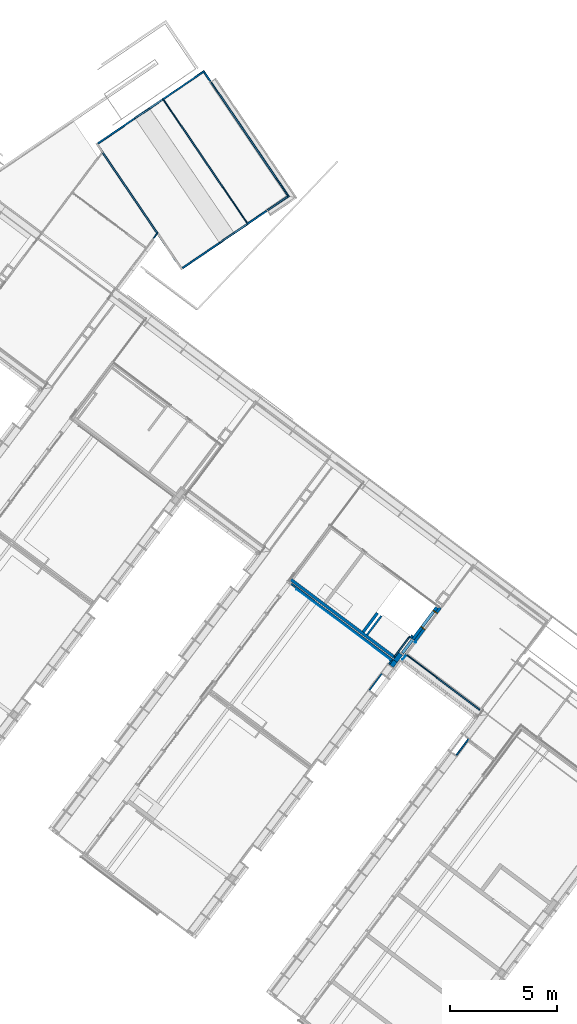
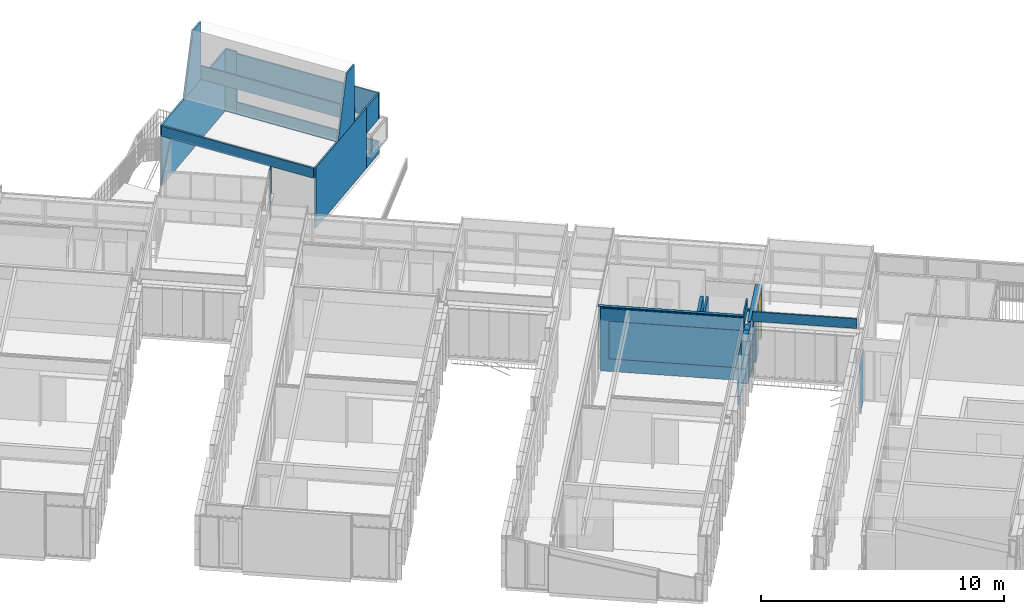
# One storey, part 131 of 243: 28 walls, 1 door, 4 openings.
"""IFC2X3 building model written with IfcOpenShell, lengths in metres."""

from ifc_helpers import new_model, entity, si_unit, converted_unit, derived_unit, direction, frame, frame_2d, origin, origin_2d_with_axis, place, context, subcontext, project, spatial, polyline, rectangle, outline, extrude, clip, halfspace, source, transform, mapped, material, layer, layer_set, layer_usage, type_object, type_shapes, element, fill, save


model = new_model("IFC2X3")

# Units and contexts
model_context = context("Model", 3, precision=1e-05, world=origin(), true_north=direction((6.123031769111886e-17, 1.0)))
body_context = subcontext(model_context, "Body", "Model", "MODEL_VIEW")
ifc_project = project(units=[si_unit("LENGTHUNIT", "METRE"), si_unit("AREAUNIT", "SQUARE_METRE"), si_unit("VOLUMEUNIT", "CUBIC_METRE"), converted_unit("PLANEANGLEUNIT", "DEGREE", entity("IfcRatioMeasure", 0.017453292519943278), si_unit("PLANEANGLEUNIT", "RADIAN"), dimensions=[0, 0, 0, 0, 0, 0, 0]), si_unit("MASSUNIT", "GRAM", prefix="KILO"), derived_unit("MASSDENSITYUNIT", [(si_unit("MASSUNIT", "GRAM", prefix="KILO"), 1), (si_unit("LENGTHUNIT", "METRE"), -3)]), derived_unit("IONCONCENTRATIONUNIT", [(si_unit("MASSUNIT", "GRAM", prefix="KILO"), 1), (si_unit("LENGTHUNIT", "METRE"), -3)]), derived_unit("MOMENTOFINERTIAUNIT", [(si_unit("LENGTHUNIT", "METRE"), 4)]), si_unit("TIMEUNIT", "SECOND"), si_unit("FREQUENCYUNIT", "HERTZ"), si_unit("THERMODYNAMICTEMPERATUREUNIT", "DEGREE_CELSIUS"), derived_unit("THERMALTRANSMITTANCEUNIT", [(si_unit("MASSUNIT", "GRAM", prefix="KILO"), 1), (si_unit("THERMODYNAMICTEMPERATUREUNIT", "KELVIN"), -1), (si_unit("TIMEUNIT", "SECOND"), -3)]), derived_unit("THERMALCONDUCTANCEUNIT", [(si_unit("MASSUNIT", "GRAM", prefix="KILO"), 1), (si_unit("THERMODYNAMICTEMPERATUREUNIT", "KELVIN"), -1), (si_unit("TIMEUNIT", "SECOND"), -3), (si_unit("LENGTHUNIT", "METRE"), 1)]), derived_unit("VOLUMETRICFLOWRATEUNIT", [(si_unit("LENGTHUNIT", "METRE"), 3), (si_unit("TIMEUNIT", "SECOND"), -1)]), derived_unit("MASSFLOWRATEUNIT", [(si_unit("MASSUNIT", "GRAM", prefix="KILO"), 1), (si_unit("TIMEUNIT", "SECOND"), -1)]), derived_unit("ROTATIONALFREQUENCYUNIT", [(si_unit("TIMEUNIT", "SECOND"), -1)]), si_unit("ELECTRICCURRENTUNIT", "AMPERE"), si_unit("ELECTRICVOLTAGEUNIT", "VOLT"), si_unit("POWERUNIT", "WATT"), si_unit("FORCEUNIT", "NEWTON", prefix="KILO"), si_unit("ILLUMINANCEUNIT", "LUX"), si_unit("LUMINOUSFLUXUNIT", "LUMEN"), si_unit("LUMINOUSINTENSITYUNIT", "CANDELA"), derived_unit("USERDEFINED", [(si_unit("MASSUNIT", "GRAM", prefix="KILO"), -1), (si_unit("LENGTHUNIT", "METRE"), -2), (si_unit("TIMEUNIT", "SECOND"), 3), (si_unit("LUMINOUSFLUXUNIT", "LUMEN"), 1)]), derived_unit("USERDEFINED", [(si_unit("MASSUNIT", "GRAM", prefix="KILO"), 1), (si_unit("TIMEUNIT", "SECOND"), -3), (si_unit("LENGTHUNIT", "METRE"), 3), (si_unit("ELECTRICCURRENTUNIT", "AMPERE"), -2)]), derived_unit("SOUNDPOWERUNIT", [(si_unit("MASSUNIT", "GRAM", prefix="KILO"), 1), (si_unit("TIMEUNIT", "SECOND"), -3), (si_unit("LENGTHUNIT", "METRE"), 2)]), derived_unit("SOUNDPRESSUREUNIT", [(si_unit("MASSUNIT", "GRAM", prefix="KILO"), 1), (si_unit("LENGTHUNIT", "METRE"), -1), (si_unit("TIMEUNIT", "SECOND"), -2)]), derived_unit("LINEARVELOCITYUNIT", [(si_unit("LENGTHUNIT", "METRE"), 1), (si_unit("TIMEUNIT", "SECOND"), -1)]), si_unit("PRESSUREUNIT", "PASCAL"), derived_unit("USERDEFINED", [(si_unit("MASSUNIT", "GRAM", prefix="KILO"), 1), (si_unit("LENGTHUNIT", "METRE"), -2), (si_unit("TIMEUNIT", "SECOND"), -2)]), derived_unit("LINEARFORCEUNIT", [(si_unit("MASSUNIT", "GRAM", prefix="KILO"), 1), (si_unit("TIMEUNIT", "SECOND"), -2)]), derived_unit("PLANARFORCEUNIT", [(si_unit("MASSUNIT", "GRAM", prefix="KILO"), 1), (si_unit("LENGTHUNIT", "METRE"), -1), (si_unit("TIMEUNIT", "SECOND"), -2)]), derived_unit("SPECIFICHEATCAPACITYUNIT", [(si_unit("THERMODYNAMICTEMPERATUREUNIT", "KELVIN"), -1), (si_unit("LENGTHUNIT", "METRE"), 2), (si_unit("TIMEUNIT", "SECOND"), -2)]), derived_unit("HEATINGVALUEUNIT", [(si_unit("LENGTHUNIT", "METRE"), 2), (si_unit("TIMEUNIT", "SECOND"), -2)]), derived_unit("VAPORPERMEABILITYUNIT", [(si_unit("LENGTHUNIT", "METRE"), -1), (si_unit("TIMEUNIT", "SECOND"), 1)]), derived_unit("DYNAMICVISCOSITYUNIT", [(si_unit("MASSUNIT", "GRAM", prefix="KILO"), 1), (si_unit("TIMEUNIT", "SECOND"), -1), (si_unit("LENGTHUNIT", "METRE"), -1)]), derived_unit("THERMALEXPANSIONCOEFFICIENTUNIT", [(si_unit("THERMODYNAMICTEMPERATUREUNIT", "KELVIN"), -1)]), derived_unit("MODULUSOFELASTICITYUNIT", [(si_unit("MASSUNIT", "GRAM", prefix="KILO"), 1), (si_unit("LENGTHUNIT", "METRE"), -1), (si_unit("TIMEUNIT", "SECOND"), -2)]), derived_unit("ISOTHERMALMOISTURECAPACITYUNIT", [(si_unit("LENGTHUNIT", "METRE"), 3), (si_unit("MASSUNIT", "GRAM", prefix="KILO"), -1)]), derived_unit("MOISTUREDIFFUSIVITYUNIT", [(si_unit("TIMEUNIT", "SECOND"), -1), (si_unit("LENGTHUNIT", "METRE"), 2)])], contexts=[model_context])

# Site, building, storey
site_placement = place(None, frame((0.0, 0.0, 235.0), z_axis=(0.0, 0.0, 1.0), x_axis=(-0.7996477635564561, 0.6004693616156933, 0.0)))
site = spatial("IfcSite", under=ifc_project, at=site_placement, Name="Default", CompositionType="ELEMENT")
building_placement = place(site_placement, origin())
building = spatial("IfcBuilding", under=site, at=building_placement, CompositionType="ELEMENT")
storey_placement = place(building_placement, origin())
storey = spatial("IfcBuildingStorey", under=building, at=storey_placement, Name="P0- Escola", CompositionType="ELEMENT", Elevation=0.0)

# Walls
ifc_material_1 = material(Name="_Ceràmica- ENV")
ifc_layer_1 = layer(ifc_material_1, 0.14)
ifc_layer_set_1 = layer_set([ifc_layer_1], Name="Muro básico:ENV- Ceràmic- 14 cm")
ifc_layer_usage_1 = layer_usage(ifc_layer_set_1, "AXIS2", "NEGATIVE", 0.07)
wall_type_1 = type_object("IfcWallType", Name="Muro básico:ENV- Ceràmic- 14 cm", PredefinedType="STANDARD", material=ifc_layer_set_1)
wall_1_placement = place(storey_placement, frame((43.24014768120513, -36.43818994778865, -0.2), z_axis=(0.0, 0.0, 1.0), x_axis=(0.0, -1.0, 0.0)))
element("IfcWallStandardCase", 1, at=wall_1_placement, inside=storey, type_object=wall_type_1, material=ifc_layer_usage_1, Name="Muro básico:ENV- Ceràmic- 14 cm", ObjectType="Muro básico:ENV- Ceràmic- 14 cm", context=body_context, shape_type="SweptSolid", body=[
    extrude(rectangle(XDim=1.1049999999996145, YDim=0.14000000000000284, at=frame_2d((0.5524999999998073, 1.5751289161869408e-15), x_axis=(-1.0, 0.0))), origin(), (0.0, 0.0, 1.0), 3.350000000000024),
])
wall_2_placement = place(storey_placement, frame((47.445147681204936, -36.36818994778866, 0.0), z_axis=(0.0, 0.0, 1.0), x_axis=(-1.0, 0.0, 0.0)))
element("IfcWallStandardCase", 2, at=wall_2_placement, inside=storey, type_object=wall_type_1, material=ifc_layer_usage_1, Name="Muro básico:ENV- Ceràmic- 14 cm", ObjectType="Muro básico:ENV- Ceràmic- 14 cm", context=body_context, shape_type="SweptSolid", body=[
    extrude(rectangle(XDim=6.059999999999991, YDim=0.1399999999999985, at=frame_2d((3.0699999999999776, 2.2620794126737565e-15), x_axis=(-1.0, 0.0))), origin(), (0.0, 0.0, 1.0), 3.150000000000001),
])

# Wall, openings, door
wall_3_placement = place(storey_placement, frame((41.18514768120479, -36.75318813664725, -0.2), z_axis=(0.0, 0.0, 1.0), x_axis=(0.0, -1.0, 0.0)))
wall_3 = element("IfcWallStandardCase", 3, at=wall_3_placement, inside=storey, type_object=wall_type_1, material=ifc_layer_usage_1, Name="Muro básico:ENV- Ceràmic- 14 cm", ObjectType="Muro básico:ENV- Ceràmic- 14 cm", context=body_context, shape_type="SweptSolid", body=[
    extrude(rectangle(XDim=2.667501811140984, YDim=0.14000000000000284, at=frame_2d((1.3337509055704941, 1.0269562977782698e-15), x_axis=(-1.0, 0.0))), origin(), (0.0, 0.0, 1.0), 2.8000000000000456),
])
opening_1_placement = place(wall_3_placement, frame((-0.0799999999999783, -0.06999999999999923, 0.2)))
element("IfcOpeningElement", 4, at=opening_1_placement, cuts=wall_3, Name="FUS- Porta Fusta- marc ocult variable- obertura interior:FUS- Porta Fusta- marc ocult- 90x250,5 cm:1", ObjectType="Opening", context=body_context, shape_type="SweptSolid", body=[
    extrude(rectangle(XDim=2.5449999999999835, YDim=0.8700000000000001, at=frame_2d((1.2724999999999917, 0.4350000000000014), x_axis=(1.0, 0.0))), frame((0.0, 0.0, 0.0), z_axis=(0.0, 1.0, 0.0), x_axis=(0.0, 0.0, 1.0)), (0.0, 0.0, 1.0), 0.14),
])
opening_2_placement = place(wall_3_placement, frame((1.48500181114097, -0.06999999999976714, 0.2)))
opening_2 = element("IfcOpeningElement", 5, at=opening_2_placement, cuts=wall_3, Name="FUS- Marc Fusta- marc ocult variable- remat ascensor:FUS- Porta Fusta- marc ocult- 90x250,5 cm:1", ObjectType="Opening", context=body_context, shape_type="SweptSolid", body=[
    extrude(rectangle(XDim=2.5449999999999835, YDim=0.9800000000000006, at=frame_2d((1.2724999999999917, 0.4900000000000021), x_axis=(1.0, 0.0))), frame((0.0, 0.0, 0.0), z_axis=(0.0, 1.0, 0.0), x_axis=(0.0, 0.0, 1.0)), (0.0, 0.0, 1.0), 0.14),
])
ifc_material_2 = material(Name="_Fusta massisa- T1")
door_style = type_object("IfcDoorStyle", Name="FUS- Marc Fusta- marc ocult variable- remat ascensor:FUS- Porta Fusta- marc ocult- 90x250,5 cm", ConstructionType="NOTDEFINED", OperationType="NOTDEFINED", ParameterTakesPrecedence=False, Sizeable=False, material=ifc_material_2)
shared_shape = source(origin(), body_context, "Body", "SweptSolid", [
    extrude(outline(polyline([(-1.2424999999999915, 0.4500000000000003), (1.2624999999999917, 0.4500000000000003), (1.2624999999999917, 0.49000000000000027), (-1.2824999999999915, 0.49000000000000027), (-1.2824999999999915, -0.48999999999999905), (1.2624999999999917, -0.4899999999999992), (1.2624999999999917, -0.44999999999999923), (-1.2424999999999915, -0.4500000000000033), (-1.2424999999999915, 0.4500000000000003)])), frame((0.49000000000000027, 0.0, 1.2624999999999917), z_axis=(0.0, 1.0, 0.0), x_axis=(0.0, 0.0, -1.0)), (0.0, 0.0, 1.0), 0.2750000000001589),
])
type_shapes(door_style, [shared_shape])
door_placement = place(opening_2_placement, frame((0.9799999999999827, 0.14000000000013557, 0.0), z_axis=(0.0, 0.0, 1.0), x_axis=(-1.0, 0.0, 0.0)))
door = element("IfcDoor", 6, at=door_placement, inside=storey, type_object=door_style, material=ifc_material_2, Name="FUS- Marc Fusta- marc ocult variable- remat ascensor:FUS- Porta Fusta- marc ocult- 90x250,5 cm", ObjectType="FUS- Marc Fusta- marc ocult variable- remat ascensor:FUS- Porta Fusta- marc ocult- 90x250,5 cm", OverallHeight=2.5449999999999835, OverallWidth=0.9800000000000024, context=body_context, shape_type="MappedRepresentation", body=[
    mapped(shared_shape, transform((0.0, 0.0, 0.0), scale=1.0)),
])
fill(opening_2, door)

# Walls
wall_4_placement = place(storey_placement, frame((41.34514768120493, -37.61318813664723, -0.2), z_axis=(0.0, 0.0, 1.0), x_axis=(-1.0, 0.0, 0.0)))
element("IfcWallStandardCase", 7, at=wall_4_placement, inside=storey, type_object=wall_type_1, material=ifc_layer_usage_1, Name="Muro básico:ENV- Ceràmic- 14 cm", ObjectType="Muro básico:ENV- Ceràmic- 14 cm", context=body_context, shape_type="SweptSolid", body=[
    extrude(rectangle(XDim=0.0900000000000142, YDim=0.14000000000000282, at=frame_2d((0.0450000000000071, 0.0), x_axis=(-1.0, 0.0))), origin(), (0.0, 0.0, 1.0), 2.8000000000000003),
])
ifc_layer_2 = layer(ifc_material_1, 0.09)
ifc_layer_set_2 = layer_set([ifc_layer_2], Name="Muro básico:ENV- Ceràmic- 9 cm")
ifc_layer_usage_2 = layer_usage(ifc_layer_set_2, "AXIS2", "NEGATIVE", 0.045)
wall_type_2 = type_object("IfcWallType", Name="Muro básico:ENV- Ceràmic- 9 cm", PredefinedType="STANDARD", material=ifc_layer_set_2)
wall_5_placement = place(storey_placement, frame((43.01514768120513, -36.43818994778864, -0.2), z_axis=(0.0, 0.0, 1.0), x_axis=(0.0, -1.0, 0.0)))
element("IfcWallStandardCase", 8, at=wall_5_placement, inside=storey, type_object=wall_type_2, material=ifc_layer_usage_2, Name="Muro básico:ENV- Ceràmic- 9 cm", ObjectType="Muro básico:ENV- Ceràmic- 9 cm", context=body_context, shape_type="SweptSolid", body=[
    extrude(rectangle(XDim=1.104999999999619, YDim=0.08999999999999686, at=frame_2d((0.5524999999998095, 0.0), x_axis=(-1.0, 0.0))), origin(), (0.0, 0.0, 1.0), 3.350000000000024),
])

# Wall, opening
ifc_material_3 = material(Name="_Fusta massisa- T1-  REV- PAV")
ifc_layer_3 = layer(ifc_material_3, 0.015)
ifc_material_4 = material(Name="_Genèric perfils, muntants, rastrells")
ifc_layer_4 = layer(ifc_material_4, 0.02)
ifc_layer_set_3 = layer_set([ifc_layer_3, ifc_layer_4], Name="Muro básico:REV- Fusta- T1- 3,5 cm")
ifc_layer_usage_3 = layer_usage(ifc_layer_set_3, "AXIS2", "NEGATIVE", 0.0175)
wall_type_3 = type_object("IfcWallType", Name="Muro básico:REV- Fusta- T1- 3,5 cm", PredefinedType="STANDARD", material=ifc_layer_set_3)
wall_6_placement = place(storey_placement, frame((40.99764768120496, -37.54068994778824, 0.0), z_axis=(0.0, 0.0, 1.0), x_axis=(0.0, 1.0, 0.0)))
wall_6 = element("IfcWallStandardCase", 9, at=wall_6_placement, inside=storey, type_object=wall_type_3, material=ifc_layer_usage_3, Name="Muro básico:REV- Fusta- T1- 3,5 cm", ObjectType="Muro básico:REV- Fusta- T1- 3,5 cm", context=body_context, shape_type="SweptSolid", body=[
    extrude(rectangle(XDim=1.0375018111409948, YDim=0.03500000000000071, at=frame_2d((0.5187509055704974, -4.331604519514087e-15), x_axis=(1.0, 0.0))), origin(), (0.0, 0.0, 1.0), 2.5650000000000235),
])
opening_3_placement = place(wall_6_placement, frame((0.047098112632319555, 1.5065000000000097, 0.0), z_axis=(0.0, 0.0, 1.0), x_axis=(0.0, -1.0, 0.0)))
element("IfcOpeningElement", 10, at=opening_3_placement, cuts=wall_6, Name="Muro básico:REV- Fusta- T1- 3,5 cm", ObjectType="Opening", context=body_context, shape_type="SweptSolid", body=[
    extrude(rectangle(XDim=2.5049999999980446, YDim=0.772789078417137, at=frame_2d((0.0, 0.0), x_axis=(0.0, 1.0))), frame((3.048, 0.3863945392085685, 1.2524999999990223), z_axis=(-1.0, 0.0, 0.0), x_axis=(0.0, -1.0, 0.0)), (0.0, 0.0, 1.0), 3.048),
])

# Walls
ifc_material_5 = material(Name="_Guix laminat- ENV")
ifc_layer_5 = layer(ifc_material_5, 0.02)
ifc_material_6 = material(Name="_Aillament")
ifc_layer_6 = layer(ifc_material_6, 0.045)
ifc_layer_set_4 = layer_set([ifc_layer_5, ifc_layer_6], Name="Muro básico:REV- Guix Laminat Extradossat- Aillament- T1- 6,5 cm")
ifc_layer_usage_4 = layer_usage(ifc_layer_set_4, "AXIS2", "NEGATIVE", 0.032499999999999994)
wall_type_4 = type_object("IfcWallType", Name="Muro básico:REV- Guix Laminat Extradossat- Aillament- T1- 6,5 cm", PredefinedType="STANDARD", material=ifc_layer_set_4)
wall_7_placement = place(storey_placement, frame((41.045147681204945, -36.79769175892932, 2.6000000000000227), z_axis=(0.0, 0.0, 1.0), x_axis=(-1.0, 0.0, 0.0)))
element("IfcWallStandardCase", 11, at=wall_7_placement, inside=storey, type_object=wall_type_4, material=ifc_layer_usage_4, Name="Muro básico:REV- Guix Laminat Extradossat- Aillament- T1- 6,5 cm", ObjectType="Muro básico:REV- Guix Laminat Extradossat- Aillament- T1- 6,5 cm", context=body_context, shape_type="SweptSolid", body=[
    extrude(rectangle(XDim=4.335008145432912, YDim=0.06500000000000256, at=frame_2d((2.167504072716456, -9.71445146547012e-17), x_axis=(-1.0, 0.0))), origin(), (0.0, 0.0, 1.0), 0.48500000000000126),
])
wall_8_placement = place(storey_placement, frame((41.37764768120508, -34.42019175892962, 0.0), z_axis=(0.0, 0.0, 1.0), x_axis=(0.0, -1.0, 0.0)))
element("IfcWallStandardCase", 12, at=wall_8_placement, inside=storey, type_object=wall_type_4, material=ifc_layer_usage_4, Name="Muro básico:REV- Guix Laminat Extradossat- Aillament- T1- 6,5 cm", ObjectType="Muro básico:REV- Guix Laminat Extradossat- Aillament- T1- 6,5 cm", context=body_context, shape_type="SweptSolid", body=[
    extrude(rectangle(XDim=0.9900000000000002, YDim=0.06500000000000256, at=frame_2d((0.4950000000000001, -1.4467593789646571e-15), x_axis=(-1.0, 0.0))), origin(), (0.0, 0.0, 1.0), 2.535000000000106),
])
wall_9_placement = place(storey_placement, frame((41.37764768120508, -35.953189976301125, 0.0), z_axis=(0.0, 0.0, 1.0), x_axis=(0.0, -1.0, 0.0)))
element("IfcWallStandardCase", 13, at=wall_9_placement, inside=storey, type_object=wall_type_4, material=ifc_layer_usage_4, Name="Muro básico:REV- Guix Laminat Extradossat- Aillament- T1- 6,5 cm", ObjectType="Muro básico:REV- Guix Laminat Extradossat- Aillament- T1- 6,5 cm", context=body_context, shape_type="SweptSolid", body=[
    extrude(rectangle(XDim=0.22200178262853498, YDim=0.06500000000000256, at=frame_2d((0.11100089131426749, 0.0), x_axis=(-1.0, 0.0))), origin(), (0.0, 0.0, 1.0), 2.535000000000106),
])
wall_10_placement = place(storey_placement, frame((58.94700862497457, -48.414051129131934, 3.0399999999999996), z_axis=(0.0, 0.0, 1.0), x_axis=(0.9460037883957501, -0.32415556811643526, 0.0)))
element("IfcWallStandardCase", 14, at=wall_10_placement, inside=storey, type_object=wall_type_4, material=ifc_layer_usage_4, Name="Muro básico:REV- Guix Laminat Extradossat- Aillament- T1- 6,5 cm", ObjectType="Muro básico:REV- Guix Laminat Extradossat- Aillament- T1- 6,5 cm", context=body_context, shape_type="SweptSolid", body=[
    extrude(rectangle(XDim=7.0999999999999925, YDim=0.06500000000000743, at=frame_2d((3.5499999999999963, -1.797173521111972e-15), x_axis=(-1.0, 0.0))), origin(), (0.0, 0.0, 1.0), 0.6776305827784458),
])
ifc_layer_usage_5 = layer_usage(ifc_layer_set_4, "AXIS2", "POSITIVE", -0.032499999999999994)
wall_11_placement = place(storey_placement, frame((36.31264768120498, -34.42019175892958, 0.0), z_axis=(0.0, 0.0, 1.0), x_axis=(0.0, -1.0, 0.0)))
element("IfcWallStandardCase", 15, at=wall_11_placement, inside=storey, type_object=wall_type_4, material=ifc_layer_usage_5, Name="Muro básico:REV- Guix Laminat Extradossat- Aillament- T1- 6,5 cm", ObjectType="Muro básico:REV- Guix Laminat Extradossat- Aillament- T1- 6,5 cm", context=body_context, shape_type="SweptSolid", body=[
    extrude(rectangle(XDim=0.9900000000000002, YDim=0.06500000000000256, at=frame_2d((0.4950000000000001, 7.181755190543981e-16), x_axis=(-1.0, 0.0))), origin(), (0.0, 0.0, 1.0), 2.565),
])
wall_12_placement = place(storey_placement, frame((41.37764768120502, -37.57518994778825, 2.565), z_axis=(0.0, 0.0, 1.0), x_axis=(0.0, 1.0, 0.0)))
element("IfcWallStandardCase", 16, at=wall_12_placement, inside=storey, type_object=wall_type_4, material=ifc_layer_usage_5, Name="Muro básico:REV- Guix Laminat Extradossat- Aillament- T1- 6,5 cm", ObjectType="Muro básico:REV- Guix Laminat Extradossat- Aillament- T1- 6,5 cm", context=body_context, shape_type="SweptSolid", body=[
    extrude(rectangle(XDim=1.1849981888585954, YDim=0.06500000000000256, at=frame_2d((0.5924990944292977, 0.0), x_axis=(-1.0, 0.0))), origin(), (0.0, 0.0, 1.0), 0.5850000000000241),
])
ifc_layer_7 = layer(ifc_material_1, 0.23)
ifc_layer_set_5 = layer_set([ifc_layer_7], Name="Muro básico:ENV- Ceràmic Replè- 23 cm")
ifc_layer_usage_6 = layer_usage(ifc_layer_set_5, "AXIS2", "POSITIVE", -0.115)
wall_type_5 = type_object("IfcWallType", Name="Muro básico:ENV- Ceràmic Replè- 23 cm", PredefinedType="STANDARD", material=ifc_layer_set_5)
wall_13_placement = place(storey_placement, frame((41.23014768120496, -36.238189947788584, 0.0), z_axis=(0.0, 0.0, 1.0), x_axis=(0.0, -1.0, 0.0)))
element("IfcWallStandardCase", 17, at=wall_13_placement, inside=storey, type_object=wall_type_5, material=ifc_layer_usage_6, Name="Muro básico:ENV- Ceràmic Replè- 23 cm", ObjectType="Muro básico:ENV- Ceràmic Replè- 23 cm", context=body_context, shape_type="SweptSolid", body=[
    extrude(rectangle(XDim=0.4349981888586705, YDim=0.2299999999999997, at=frame_2d((0.21749909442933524, 0.0), x_axis=(-1.0, 0.0))), origin(), (0.0, 0.0, 1.0), 2.514054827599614),
])
wall_14_placement = place(storey_placement, frame((41.23014768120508, -35.95318997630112, 0.0), z_axis=(0.0, 0.0, 1.0), x_axis=(0.0, -1.0, 0.0)))
element("IfcWallStandardCase", 18, at=wall_14_placement, inside=storey, type_object=wall_type_5, material=ifc_layer_usage_6, Name="Muro básico:ENV- Ceràmic Replè- 23 cm", ObjectType="Muro básico:ENV- Ceràmic Replè- 23 cm", context=body_context, shape_type="SweptSolid", body=[
    extrude(rectangle(XDim=0.2970017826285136, YDim=0.2299999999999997, at=frame_2d((0.1485008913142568, 0.0), x_axis=(-1.0, 0.0))), origin(), (0.0, 0.0, 1.0), 2.514054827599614),
])

# Wall, opening
ifc_layer_8 = layer(ifc_material_3, 0.015)
ifc_layer_9 = layer(ifc_material_4, 0.12)
ifc_layer_set_6 = layer_set([ifc_layer_8, ifc_layer_9], Name="Muro básico:REV- Fusta- T1- 13,5 cm")
ifc_layer_usage_7 = layer_usage(ifc_layer_set_6, "AXIS2", "POSITIVE", -0.06749999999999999)
wall_type_6 = type_object("IfcWallType", Name="Muro básico:REV- Fusta- T1- 13,5 cm", PredefinedType="STANDARD", material=ifc_layer_set_6)
wall_15_placement = place(storey_placement, frame((41.04764768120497, -37.54068994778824, 0.0), z_axis=(0.0, 0.0, 1.0), x_axis=(0.0, -1.0, 0.0)))
wall_15 = element("IfcWallStandardCase", 19, at=wall_15_placement, inside=storey, type_object=wall_type_6, material=ifc_layer_usage_7, Name="Muro básico:REV- Fusta- T1- 13,5 cm", ObjectType="Muro básico:REV- Fusta- T1- 13,5 cm", context=body_context, shape_type="SweptSolid", body=[
    extrude(rectangle(XDim=1.9575000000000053, YDim=0.13500000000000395, at=frame_2d((0.9787500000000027, -4.093947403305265e-15), x_axis=(-1.0, 0.0))), origin(), (0.0, 0.0, 1.0), 2.565000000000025),
])
opening_4_placement = place(wall_15_placement, frame((1.6802415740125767, -1.4565000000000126, 0.0), z_axis=(0.0, 0.0, 1.0), x_axis=(0.0, 1.0, 0.0)))
element("IfcOpeningElement", 20, at=opening_4_placement, cuts=wall_15, Name="Muro básico:REV- Fusta- T1- 13,5 cm", ObjectType="Opening", context=body_context, shape_type="SweptSolid", body=[
    extrude(rectangle(XDim=2.5449999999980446, YDim=0.9875355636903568, at=origin_2d_with_axis()), frame((0.0, 0.4937677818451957, 1.2724999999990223), z_axis=(1.0, 0.0, 0.0), x_axis=(0.0, 0.0, 1.0)), (0.0, 0.0, 1.0), 3.048),
])

# Walls
ifc_layer_10 = layer(ifc_material_5, 0.03)
ifc_layer_11 = layer(ifc_material_6, 0.045)
ifc_layer_set_7 = layer_set([ifc_layer_10, ifc_layer_11], Name="Muro básico:REV- Guix Laminat Extradossat- Aillament- T1- 7,5 cm")
ifc_layer_usage_8 = layer_usage(ifc_layer_set_7, "AXIS2", "POSITIVE", -0.0375)
wall_type_7 = type_object("IfcWallType", Name="Muro básico:REV- Guix Laminat Extradossat- Aillament- T1- 7,5 cm", PredefinedType="STANDARD", material=ifc_layer_set_7)
wall_16_placement = place(storey_placement, frame((47.280147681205, -36.21269175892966, 0.0), z_axis=(0.0, 0.0, 1.0), x_axis=(-1.0, 0.0, 0.0)))
element("IfcWallStandardCase", 21, at=wall_16_placement, inside=storey, type_object=wall_type_7, material=ifc_layer_usage_8, Name="Muro básico:REV- Guix Laminat Extradossat- Aillament- T1- 7,5 cm", ObjectType="Muro básico:REV- Guix Laminat Extradossat- Aillament- T1- 7,5 cm", context=body_context, shape_type="SweptSolid", body=[
    extrude(rectangle(XDim=5.934999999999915, YDim=0.07500000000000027, at=frame_2d((2.9674999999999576, 0.0), x_axis=(-1.0, 0.0))), origin(), (0.0, 0.0, 1.0), 3.150000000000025),
])
ifc_layer_12 = layer(ifc_material_3, 0.02)
ifc_layer_13 = layer(ifc_material_4, 0.03)
ifc_layer_set_8 = layer_set([ifc_layer_12, ifc_layer_13], Name="Muro básico:REV- Fusta- T1- 5 cm")
ifc_layer_usage_9 = layer_usage(ifc_layer_set_8, "AXIS2", "NEGATIVE", 0.024999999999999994)
wall_type_8 = type_object("IfcWallType", Name="Muro básico:REV- Fusta- T1- 5 cm", PredefinedType="STANDARD", material=ifc_layer_set_8)
wall_17_placement = place(storey_placement, frame((62.08548814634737, -45.23084133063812, 0.0), z_axis=(0.0, 0.0, 1.0), x_axis=(0.0, -1.0, 0.0)))
element("IfcWallStandardCase", 22, at=wall_17_placement, inside=storey, type_object=wall_type_8, material=ifc_layer_usage_9, Name="Muro básico:REV- Fusta- T1- 5 cm", ObjectType="Muro básico:REV- Fusta- T1- 5 cm", context=body_context, shape_type="SweptSolid", body=[
    extrude(outline(polyline([(0.3468064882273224, -0.02499999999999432), (0.3639393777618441, 0.025000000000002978), (0.0, 0.025000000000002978), (0.0, -0.02499999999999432), (0.2675256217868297, -0.02499999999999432), (0.3468064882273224, -0.02499999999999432)])), origin(), (0.0, 0.0, 1.0), 2.5349999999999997),
])
ifc_material_7 = material(Name="_Pissarra- T1- Rev")
ifc_layer_14 = layer(ifc_material_7, 0.01)
ifc_layer_set_9 = layer_set([ifc_layer_14], Name="Muro básico:REV- Pissarra")
ifc_layer_usage_10 = layer_usage(ifc_layer_set_9, "AXIS2", "POSITIVE", -0.005000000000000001)
wall_type_9 = type_object("IfcWallType", Name="Muro básico:REV- Pissarra", PredefinedType="STANDARD", material=ifc_layer_set_9)
wall_18_placement = place(storey_placement, frame((46.920147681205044, -36.1551899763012, 0.6500000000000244), z_axis=(0.0, 0.0, 1.0), x_axis=(-1.0, 0.0, 0.0)))
element("IfcWallStandardCase", 23, at=wall_18_placement, inside=storey, type_object=wall_type_9, material=ifc_layer_usage_10, Name="Muro básico:REV- Pissarra", ObjectType="Muro básico:REV- Pissarra", context=body_context, shape_type="SweptSolid", body=[
    extrude(rectangle(XDim=5.479999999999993, YDim=0.009999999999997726, at=frame_2d((2.7399999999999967, 7.151397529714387e-16), x_axis=(-1.0, 0.0))), origin(), (0.0, 0.0, 1.0), 1.8850000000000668),
])
ifc_layer_15 = layer(ifc_material_2, 0.015)
ifc_layer_16 = layer(ifc_material_5, 0.015)
ifc_layer_17 = layer(ifc_material_6, 0.045)
ifc_layer_set_10 = layer_set([ifc_layer_15, ifc_layer_16, ifc_layer_17], Name="Muro básico:REV- Fusta + Guix Laminat Extradossat- Aillament- T1- 7,5 cm")
ifc_layer_usage_11 = layer_usage(ifc_layer_set_10, "AXIS2", "NEGATIVE", 0.0375)
wall_type_10 = type_object("IfcWallType", Name="Muro básico:REV- Fusta + Guix Laminat Extradossat- Aillament- T1- 7,5 cm", PredefinedType="STANDARD", material=ifc_layer_set_10)
wall_19_placement = place(storey_placement, frame((60.203739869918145, -44.86213769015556, 0.0), z_axis=(0.0, 0.0, 1.0), x_axis=(-0.3241555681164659, -0.9460037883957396, 0.0)))
element("IfcWallStandardCase", 24, at=wall_19_placement, inside=storey, type_object=wall_type_10, material=ifc_layer_usage_11, Name="Muro básico:REV- Fusta + Guix Laminat Extradossat- Aillament- T1- 7,5 cm", ObjectType="Muro básico:REV- Fusta + Guix Laminat Extradossat- Aillament- T1- 7,5 cm", context=body_context, shape_type="SweptSolid", body=[
    extrude(rectangle(XDim=4.774999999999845, YDim=0.07500000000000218, at=frame_2d((2.462499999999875, -2.3939183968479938e-15), x_axis=(-1.0, 0.0))), origin(), (0.0, 0.0, 1.0), 3.0399999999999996),
])
ifc_layer_usage_12 = layer_usage(ifc_layer_set_10, "AXIS2", "POSITIVE", -0.0375)
wall_20_placement = place(storey_placement, frame((66.84941648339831, -47.13933055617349, 0.0), z_axis=(0.0, 0.0, 1.0), x_axis=(-0.3241555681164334, -0.9460037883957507, 0.0)))
element("IfcWallStandardCase", 25, at=wall_20_placement, inside=storey, type_object=wall_type_10, material=ifc_layer_usage_12, Name="Muro básico:REV- Fusta + Guix Laminat Extradossat- Aillament- T1- 7,5 cm", ObjectType="Muro básico:REV- Fusta + Guix Laminat Extradossat- Aillament- T1- 7,5 cm", context=body_context, shape_type="SweptSolid", body=[
    extrude(rectangle(XDim=6.025000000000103, YDim=0.07500000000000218, at=frame_2d((3.0874999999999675, -7.230327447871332e-15), x_axis=(-1.0, 0.0))), origin(), (0.0, 0.0, 1.0), 3.0399999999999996),
])
wall_21_placement = place(storey_placement, frame((64.84874820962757, -52.86232268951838, 0.0), z_axis=(0.0, 0.0, 1.0), x_axis=(-0.9460037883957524, 0.3241555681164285, 0.0)))
element("IfcWallStandardCase", 26, at=wall_21_placement, inside=storey, type_object=wall_type_10, material=ifc_layer_usage_12, Name="Muro básico:REV- Fusta + Guix Laminat Extradossat- Aillament- T1- 7,5 cm", ObjectType="Muro básico:REV- Fusta + Guix Laminat Extradossat- Aillament- T1- 7,5 cm", context=body_context, shape_type="SweptSolid", body=[
    extrude(rectangle(XDim=0.5250000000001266, YDim=0.07499999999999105, at=frame_2d((0.2625000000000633, 1.2559397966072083e-15), x_axis=(-1.0, 0.0))), origin(), (0.0, 0.0, 1.0), 3.1350000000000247),
])
wall_22_placement = place(storey_placement, frame((58.27402188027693, -50.60944149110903, 0.0), z_axis=(0.0, 0.0, 1.0), x_axis=(0.9460037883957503, -0.32415556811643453, 0.0)))
element("IfcWallStandardCase", 27, at=wall_22_placement, inside=storey, type_object=wall_type_10, material=ifc_layer_usage_11, Name="Muro básico:REV- Fusta + Guix Laminat Extradossat- Aillament- T1- 7,5 cm", ObjectType="Muro básico:REV- Fusta + Guix Laminat Extradossat- Aillament- T1- 7,5 cm", context=body_context, shape_type="SweptSolid", body=[
    extrude(rectangle(XDim=6.425000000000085, YDim=0.07499999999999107, at=frame_2d((3.2125000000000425, 1.0859368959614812e-15), x_axis=(-1.0, 0.0))), origin(), (0.0, 0.0, 1.0), 0.6000000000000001),
])
wall_23_placement = place(storey_placement, frame((58.20307159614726, -50.58512982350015, 1.7499999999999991), z_axis=(0.0, 0.0, 1.0), x_axis=(0.9460037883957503, -0.32415556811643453, 0.0)))
element("IfcWallStandardCase", 28, at=wall_23_placement, inside=storey, type_object=wall_type_10, material=ifc_layer_usage_11, Name="Muro básico:REV- Fusta + Guix Laminat Extradossat- Aillament- T1- 7,5 cm", ObjectType="Muro básico:REV- Fusta + Guix Laminat Extradossat- Aillament- T1- 7,5 cm", context=body_context, shape_type="SweptSolid", body=[
    extrude(rectangle(XDim=6.500000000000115, YDim=0.0749999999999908, at=frame_2d((3.2500000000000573, 1.3877787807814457e-16), x_axis=(-1.0, 0.0))), origin(), (0.0, 0.0, 1.0), 1.2900000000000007),
])
wall_24_placement = place(storey_placement, frame((58.63158536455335, -49.45025606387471, 0.0), z_axis=(0.0, 0.0, 1.0), x_axis=(-0.3241555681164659, -0.9460037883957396, 0.0)))
element("IfcWallStandardCase", 29, at=wall_24_placement, inside=storey, type_object=wall_type_10, material=ifc_layer_usage_11, Name="Muro básico:REV- Fusta + Guix Laminat Extradossat- Aillament- T1- 7,5 cm", ObjectType="Muro básico:REV- Fusta + Guix Laminat Extradossat- Aillament- T1- 7,5 cm", context=body_context, shape_type="SweptSolid", body=[
    extrude(rectangle(XDim=1.2500000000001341, YDim=0.07499999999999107, at=frame_2d((0.6250000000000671, 9.853229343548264e-16), x_axis=(-1.0, 0.0))), origin(), (0.0, 0.0, 1.0), 0.6000000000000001),
])
wall_25_placement = place(storey_placement, frame((58.631585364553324, -49.450256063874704, 1.7499999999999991), z_axis=(0.0, 0.0, 1.0), x_axis=(-0.3241555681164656, -0.9460037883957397, 0.0)))
element("IfcWallStandardCase", 30, at=wall_25_placement, inside=storey, type_object=wall_type_10, material=ifc_layer_usage_11, Name="Muro básico:REV- Fusta + Guix Laminat Extradossat- Aillament- T1- 7,5 cm", ObjectType="Muro básico:REV- Fusta + Guix Laminat Extradossat- Aillament- T1- 7,5 cm", context=body_context, shape_type="SweptSolid", body=[
    extrude(rectangle(XDim=1.1749999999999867, YDim=0.07499999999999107, at=frame_2d((0.5874999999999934, -1.384309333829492e-15), x_axis=(-1.0, 0.0))), origin(), (0.0, 0.0, 1.0), 1.2900000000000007),
])
wall_26_placement = place(storey_placement, frame((59.49708073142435, -46.92442594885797, 3.0399999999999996), z_axis=(0.0, 0.0, 1.0), x_axis=(-0.3241555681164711, -0.9460037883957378, 0.0)))
element("IfcWallStandardCase", 31, at=wall_26_placement, inside=storey, type_object=wall_type_10, material=ifc_layer_usage_11, Name="Muro básico:REV- Fusta + Guix Laminat Extradossat- Aillament- T1- 7,5 cm", ObjectType="Muro básico:REV- Fusta + Guix Laminat Extradossat- Aillament- T1- 7,5 cm", context=body_context, shape_type="Clipping", body=[
    clip(extrude(rectangle(XDim=1.5550000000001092, YDim=0.07499999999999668, at=frame_2d((0.7775000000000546, 1.7486012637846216e-15), x_axis=(-1.0, 0.0))), origin(), (0.0, 0.0, 1.0), 2.895000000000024), halfspace(frame((0.0, -0.03749999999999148, 0.0), z_axis=(-0.9616241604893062, 0.0, 0.27437014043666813), x_axis=(0.0, 1.0, 0.0)), False)),
])
wall_27_placement = place(storey_placement, frame((66.14275734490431, -49.20161881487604, 3.0399999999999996), z_axis=(0.0, 0.0, 1.0), x_axis=(-0.32415556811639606, -0.9460037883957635, 0.0)))
element("IfcWallStandardCase", 32, at=wall_27_placement, inside=storey, type_object=wall_type_10, material=ifc_layer_usage_12, Name="Muro básico:REV- Fusta + Guix Laminat Extradossat- Aillament- T1- 7,5 cm", ObjectType="Muro básico:REV- Fusta + Guix Laminat Extradossat- Aillament- T1- 7,5 cm", context=body_context, shape_type="Clipping", body=[
    clip(extrude(rectangle(XDim=1.5549999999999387, YDim=0.07499999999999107, at=frame_2d((0.7774999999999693, 2.373101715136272e-15), x_axis=(-1.0, 0.0))), origin(), (0.0, 0.0, 1.0), 2.895000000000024), halfspace(frame((0.0, -0.03750000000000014, 0.0), z_axis=(-0.9616241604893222, 0.0, 0.2743701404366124), x_axis=(0.0, 1.0, 0.0)), False)),
])
wall_28_placement = place(storey_placement, frame((66.80178550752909, -47.162649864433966, 2.5350000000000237), z_axis=(0.0, 0.0, 1.0), x_axis=(-0.9460037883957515, 0.32415556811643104, 0.0)))
element("IfcWallStandardCase", 33, at=wall_28_placement, inside=storey, type_object=wall_type_10, material=ifc_layer_usage_11, Name="Muro básico:REV- Fusta + Guix Laminat Extradossat- Aillament- T1- 7,5 cm", ObjectType="Muro básico:REV- Fusta + Guix Laminat Extradossat- Aillament- T1- 7,5 cm", context=body_context, shape_type="SweptSolid", body=[
    extrude(rectangle(XDim=6.950000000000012, YDim=0.07499999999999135, at=frame_2d((3.475000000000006, 2.7096380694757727e-15), x_axis=(-1.0, 0.0))), origin(), (0.0, 0.0, 1.0), 0.5049999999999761),
])

save(model, "model.ifc")
